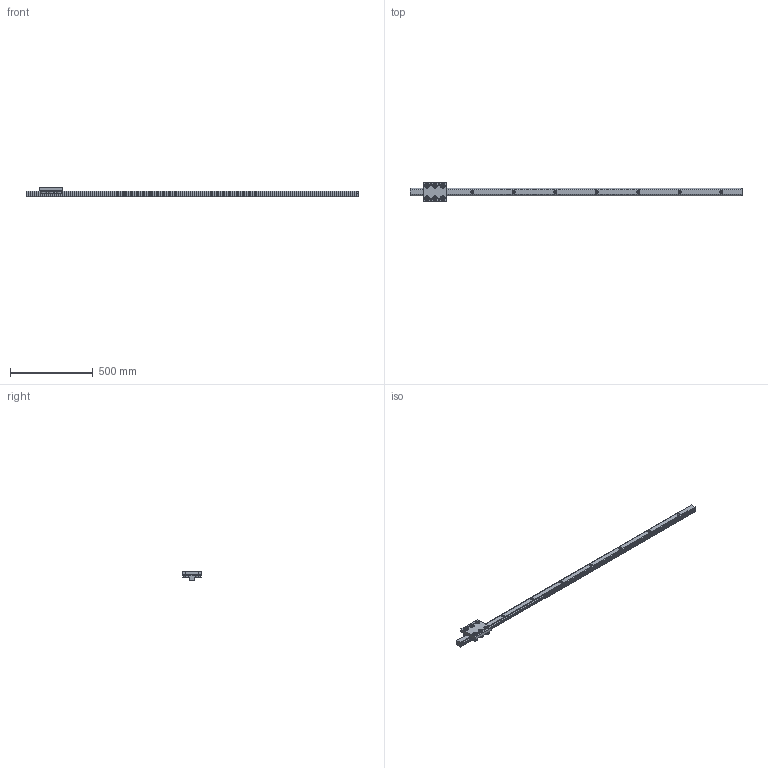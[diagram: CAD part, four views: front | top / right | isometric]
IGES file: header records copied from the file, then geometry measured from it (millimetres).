
Global section: file name: No Iges File Name specified; native system: AutoDesk Inventor R11.0; preprocessor: AutoDesk Inventor Iges Exporter R11.0; author: No Author specified; organization: No Organization specified; date: 20170718.165131; units: millimetre
Bounding box: 2000 x 120 x 54.3 mm (x, y, z)
Surface area: 395247.2 mm2 (no closed solid volume)
Topology: 0 solids, 0 shells, 341 faces, 2006 edges, 2006 vertices
Faces by surface type: bspline 341
